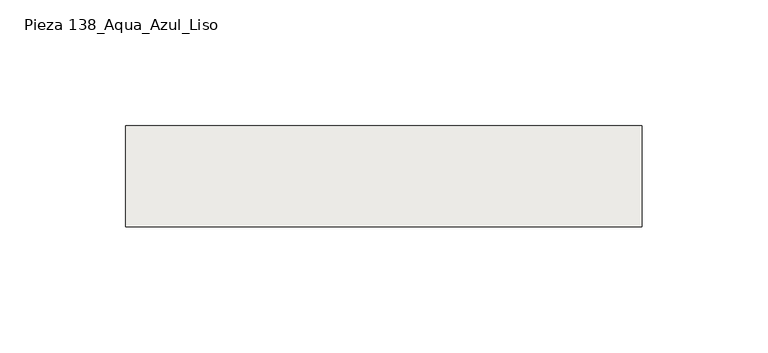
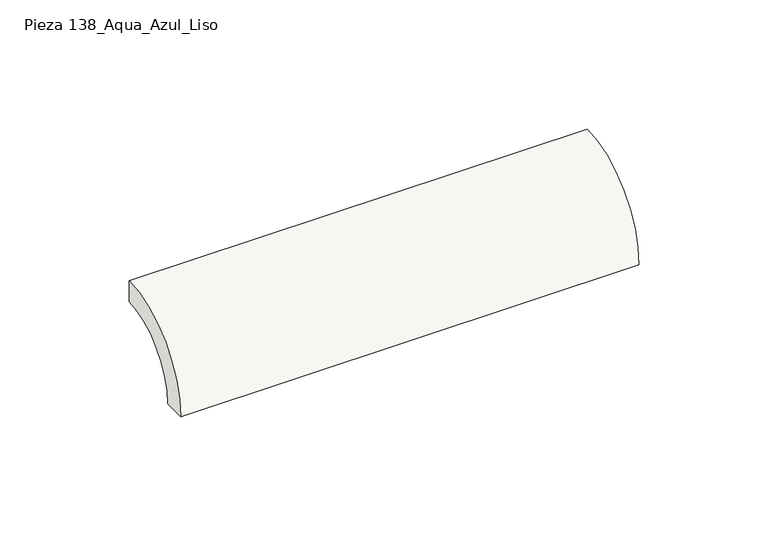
"""IFC4 building model written with IfcOpenShell, lengths in millimetres: slab geometry, ROSA GRES_138 : Pieza 138_Aqua_Azul_Liso."""

from ifc_helpers import new_model, si_unit, point, frame, frame_2d, origin, origin_2d, place, context, project, spatial, polyline, circle_curve, trimmed, segment, composite_curve, outline, extrude, source, transform, mapped, element, save


def pieza_138_aqua_azul_liso_f5fe175b(model_context):
    return source(origin(), model_context, "Body", "SweptSolid", [
        extrude(outline(composite_curve([segment(polyline([(0.0, 40.0), (0.0, 30.0265886)]), True, "CONTINUOUS"), segment(trimmed(circle_curve(frame_2d((-0.0044453, 0.0044453)), 30.0221435), [point((0.0, 30.0265886))], [point((-30.0265886, 0.0))], True, "CARTESIAN"), True, "CONTINUOUS"), segment(polyline([(-30.0265886, 0.0), (-40.0, 0.0)]), True, "CONTINUOUS"), segment(trimmed(circle_curve(origin_2d(), 40.0), [point((-40.0, 0.0))], [point((0.0, 40.0))], False, "CARTESIAN"), True, "CONTINUOUS")], self_intersect=False)), frame((0.0, 0.0, 0.0), z_axis=(1.0, 0.0, 0.0), x_axis=(0.0, 1.0, 0.0)), (0.0, 0.0, 1.0), 205.0),
    ])


if __name__ == "__main__":
    model = new_model("IFC4")
    model_context = context("Model", 3, world=origin())
    ifc_project = project(units=[si_unit("LENGTHUNIT", "METRE", prefix="MILLI")], contexts=[model_context])
    site = spatial("IfcSite", under=ifc_project)
    building = spatial("IfcBuilding", under=site)
    placement = place(None, origin())
    pieza_138_aqua_azul_liso_shape = pieza_138_aqua_azul_liso_f5fe175b(model_context)
    element("IfcSlab", 1, ObjectType="ROSA GRES_138 : Pieza 138_Aqua_Azul_Liso", at=placement, inside=building, context=model_context, shape_type="MappedRepresentation", body=[
        mapped(pieza_138_aqua_azul_liso_shape, transform((0.0, 0.0, 0.0), x_axis=(1.0, 0.0, 0.0), y_axis=(0.0, 1.0, 0.0), z_axis=(0.0, 0.0, 1.0))),
    ])
    save(model, "model.ifc")
